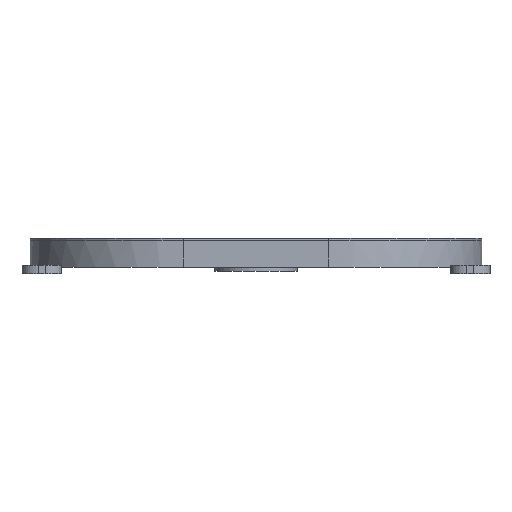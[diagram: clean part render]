
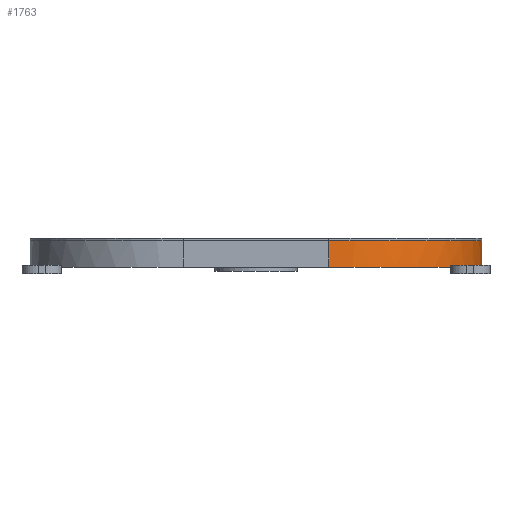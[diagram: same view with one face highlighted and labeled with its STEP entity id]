
A CAD part, left-side view. The second image highlights one B-rep face of the part: STEP entity #1763.
In plain terms, the highlighted cylindrical face has radius 9.3 mm (diameter 18.6 mm), a partial arc.
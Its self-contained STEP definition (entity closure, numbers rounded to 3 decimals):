
#205 = PLANE('',#206);
#206 = AXIS2_PLACEMENT_3D('',#207,#208,#209);
#207 = CARTESIAN_POINT('',(0.,-47.,-2.4));
#208 = DIRECTION('',(0.,0.,-1.));
#209 = DIRECTION('',(-1.,0.,0.));
#466 = TOROIDAL_SURFACE('',#467,7.95,1.35);
#467 = AXIS2_PLACEMENT_3D('',#468,#469,#470);
#468 = CARTESIAN_POINT('',(-4.4,-51.4,-0.8));
#469 = DIRECTION('',(0.,0.,-1.));
#470 = DIRECTION('',(-1.,0.,0.));
#572 = PLANE('',#573);
#573 = AXIS2_PLACEMENT_3D('',#574,#575,#576);
#574 = CARTESIAN_POINT('',(0.,-60.,-2.3));
#575 = DIRECTION('',(0.,0.,-1.));
#576 = DIRECTION('',(-1.,0.,0.));
#604 = PLANE('',#605);
#605 = AXIS2_PLACEMENT_3D('',#606,#607,#608);
#606 = CARTESIAN_POINT('',(-13.5,-58.8,-2.3));
#607 = DIRECTION('',(0.,1.,0.));
#608 = DIRECTION('',(1.,0.,0.));
#654 = PLANE('',#655);
#655 = AXIS2_PLACEMENT_3D('',#656,#657,#658);
#656 = CARTESIAN_POINT('',(4.4,-60.7,0.55));
#657 = DIRECTION('',(0.,-1.,0.));
#658 = DIRECTION('',(-1.,0.,0.));
#724 = VERTEX_POINT('',#725);
#725 = CARTESIAN_POINT('',(-10.033,-58.8,-2.4));
#746 = EDGE_CURVE('',#724,#747,#749,.T.);
#747 = VERTEX_POINT('',#748);
#748 = CARTESIAN_POINT('',(-13.7,-51.4,-2.4));
#749 = SURFACE_CURVE('',#750,(#755,#762),.PCURVE_S1.);
#750 = CIRCLE('',#751,9.3);
#751 = AXIS2_PLACEMENT_3D('',#752,#753,#754);
#752 = CARTESIAN_POINT('',(-4.4,-51.4,-2.4));
#753 = DIRECTION('',(-0.,-0.,-1.));
#754 = DIRECTION('',(0.,-1.,0.));
#755 = PCURVE('',#205,#756);
#756 = DEFINITIONAL_REPRESENTATION('',(#757),#761);
#757 = CIRCLE('',#758,9.3);
#758 = AXIS2_PLACEMENT_2D('',#759,#760);
#759 = CARTESIAN_POINT('',(4.4,-4.4));
#760 = DIRECTION('',(0.,-1.));
#761 = ( GEOMETRIC_REPRESENTATION_CONTEXT(2) 
PARAMETRIC_REPRESENTATION_CONTEXT() REPRESENTATION_CONTEXT('2D SPACE',''
  ) );
#762 = PCURVE('',#763,#768);
#763 = CYLINDRICAL_SURFACE('',#764,9.3);
#764 = AXIS2_PLACEMENT_3D('',#765,#766,#767);
#765 = CARTESIAN_POINT('',(-4.4,-51.4,0.55));
#766 = DIRECTION('',(0.,0.,-1.));
#767 = DIRECTION('',(0.,-1.,0.));
#768 = DEFINITIONAL_REPRESENTATION('',(#769),#773);
#769 = LINE('',#770,#771);
#770 = CARTESIAN_POINT('',(0.,2.95));
#771 = VECTOR('',#772,1.);
#772 = DIRECTION('',(1.,0.));
#773 = ( GEOMETRIC_REPRESENTATION_CONTEXT(2) 
PARAMETRIC_REPRESENTATION_CONTEXT() REPRESENTATION_CONTEXT('2D SPACE',''
  ) );
#791 = PLANE('',#792);
#792 = AXIS2_PLACEMENT_3D('',#793,#794,#795);
#793 = CARTESIAN_POINT('',(-13.7,-51.4,0.55));
#794 = DIRECTION('',(-1.,0.,0.));
#795 = DIRECTION('',(0.,1.,0.));
#958 = VERTEX_POINT('',#959);
#959 = CARTESIAN_POINT('',(-4.4,-60.7,-0.8));
#1008 = VERTEX_POINT('',#1009);
#1009 = CARTESIAN_POINT('',(-13.7,-51.4,-0.8));
#1031 = EDGE_CURVE('',#1008,#958,#1032,.T.);
#1032 = SURFACE_CURVE('',#1033,(#1038,#1045),.PCURVE_S1.);
#1033 = CIRCLE('',#1034,9.3);
#1034 = AXIS2_PLACEMENT_3D('',#1035,#1036,#1037);
#1035 = CARTESIAN_POINT('',(-4.4,-51.4,-0.8));
#1036 = DIRECTION('',(0.,0.,1.));
#1037 = DIRECTION('',(-0.707,-0.707,0.));
#1038 = PCURVE('',#466,#1039);
#1039 = DEFINITIONAL_REPRESENTATION('',(#1040),#1044);
#1040 = LINE('',#1041,#1042);
#1041 = CARTESIAN_POINT('',(11.781,6.283));
#1042 = VECTOR('',#1043,1.);
#1043 = DIRECTION('',(-1.,0.));
#1044 = ( GEOMETRIC_REPRESENTATION_CONTEXT(2) 
PARAMETRIC_REPRESENTATION_CONTEXT() REPRESENTATION_CONTEXT('2D SPACE',''
  ) );
#1045 = PCURVE('',#763,#1046);
#1046 = DEFINITIONAL_REPRESENTATION('',(#1047),#1051);
#1047 = LINE('',#1048,#1049);
#1048 = CARTESIAN_POINT('',(7.069,1.35));
#1049 = VECTOR('',#1050,1.);
#1050 = DIRECTION('',(-1.,0.));
#1051 = ( GEOMETRIC_REPRESENTATION_CONTEXT(2) 
PARAMETRIC_REPRESENTATION_CONTEXT() REPRESENTATION_CONTEXT('2D SPACE',''
  ) );
#1185 = EDGE_CURVE('',#1186,#1188,#1190,.T.);
#1186 = VERTEX_POINT('',#1187);
#1187 = CARTESIAN_POINT('',(-10.033,-58.8,-2.3));
#1188 = VERTEX_POINT('',#1189);
#1189 = CARTESIAN_POINT('',(-4.4,-60.7,-2.3));
#1190 = SURFACE_CURVE('',#1191,(#1196,#1207),.PCURVE_S1.);
#1191 = CIRCLE('',#1192,9.3);
#1192 = AXIS2_PLACEMENT_3D('',#1193,#1194,#1195);
#1193 = CARTESIAN_POINT('',(-4.4,-51.4,-2.3));
#1194 = DIRECTION('',(0.,0.,1.));
#1195 = DIRECTION('',(0.,-1.,0.));
#1196 = PCURVE('',#572,#1197);
#1197 = DEFINITIONAL_REPRESENTATION('',(#1198),#1206);
#1198 = ( BOUNDED_CURVE() B_SPLINE_CURVE(2,(#1199,#1200,#1201,#1202,
#1203,#1204,#1205),.UNSPECIFIED.,.T.,.F.) B_SPLINE_CURVE_WITH_KNOTS((1,2
    ,2,2,2,1),(-2.094,0.,2.094,4.189,
6.283,8.378),.UNSPECIFIED.) CURVE() 
GEOMETRIC_REPRESENTATION_ITEM() RATIONAL_B_SPLINE_CURVE((1.,0.5,1.,0.5,
1.,0.5,1.)) REPRESENTATION_ITEM('') );
#1199 = CARTESIAN_POINT('',(4.4,-0.7));
#1200 = CARTESIAN_POINT('',(-11.708,-0.7));
#1201 = CARTESIAN_POINT('',(-3.654,13.25));
#1202 = CARTESIAN_POINT('',(4.4,27.2));
#1203 = CARTESIAN_POINT('',(12.454,13.25));
#1204 = CARTESIAN_POINT('',(20.508,-0.7));
#1205 = CARTESIAN_POINT('',(4.4,-0.7));
#1206 = ( GEOMETRIC_REPRESENTATION_CONTEXT(2) 
PARAMETRIC_REPRESENTATION_CONTEXT() REPRESENTATION_CONTEXT('2D SPACE',''
  ) );
#1207 = PCURVE('',#763,#1208);
#1208 = DEFINITIONAL_REPRESENTATION('',(#1209),#1213);
#1209 = LINE('',#1210,#1211);
#1210 = CARTESIAN_POINT('',(6.283,2.85));
#1211 = VECTOR('',#1212,1.);
#1212 = DIRECTION('',(-1.,0.));
#1213 = ( GEOMETRIC_REPRESENTATION_CONTEXT(2) 
PARAMETRIC_REPRESENTATION_CONTEXT() REPRESENTATION_CONTEXT('2D SPACE',''
  ) );
#1484 = EDGE_CURVE('',#724,#1186,#1485,.T.);
#1485 = SURFACE_CURVE('',#1486,(#1490,#1497),.PCURVE_S1.);
#1486 = LINE('',#1487,#1488);
#1487 = CARTESIAN_POINT('',(-10.033,-58.8,0.55));
#1488 = VECTOR('',#1489,1.);
#1489 = DIRECTION('',(0.,0.,1.));
#1490 = PCURVE('',#604,#1491);
#1491 = DEFINITIONAL_REPRESENTATION('',(#1492),#1496);
#1492 = LINE('',#1493,#1494);
#1493 = CARTESIAN_POINT('',(3.467,-2.85));
#1494 = VECTOR('',#1495,1.);
#1495 = DIRECTION('',(0.,-1.));
#1496 = ( GEOMETRIC_REPRESENTATION_CONTEXT(2) 
PARAMETRIC_REPRESENTATION_CONTEXT() REPRESENTATION_CONTEXT('2D SPACE',''
  ) );
#1497 = PCURVE('',#763,#1498);
#1498 = DEFINITIONAL_REPRESENTATION('',(#1499),#1503);
#1499 = LINE('',#1500,#1501);
#1500 = CARTESIAN_POINT('',(0.651,0.));
#1501 = VECTOR('',#1502,1.);
#1502 = DIRECTION('',(0.,-1.));
#1503 = ( GEOMETRIC_REPRESENTATION_CONTEXT(2) 
PARAMETRIC_REPRESENTATION_CONTEXT() REPRESENTATION_CONTEXT('2D SPACE',''
  ) );
#1587 = EDGE_CURVE('',#958,#1188,#1588,.T.);
#1588 = SURFACE_CURVE('',#1589,(#1593,#1600),.PCURVE_S1.);
#1589 = LINE('',#1590,#1591);
#1590 = CARTESIAN_POINT('',(-4.4,-60.7,0.55));
#1591 = VECTOR('',#1592,1.);
#1592 = DIRECTION('',(0.,0.,-1.));
#1593 = PCURVE('',#654,#1594);
#1594 = DEFINITIONAL_REPRESENTATION('',(#1595),#1599);
#1595 = LINE('',#1596,#1597);
#1596 = CARTESIAN_POINT('',(8.8,0.));
#1597 = VECTOR('',#1598,1.);
#1598 = DIRECTION('',(0.,1.));
#1599 = ( GEOMETRIC_REPRESENTATION_CONTEXT(2) 
PARAMETRIC_REPRESENTATION_CONTEXT() REPRESENTATION_CONTEXT('2D SPACE',''
  ) );
#1600 = PCURVE('',#763,#1601);
#1601 = DEFINITIONAL_REPRESENTATION('',(#1602),#1606);
#1602 = LINE('',#1603,#1604);
#1603 = CARTESIAN_POINT('',(0.,0.));
#1604 = VECTOR('',#1605,1.);
#1605 = DIRECTION('',(0.,1.));
#1606 = ( GEOMETRIC_REPRESENTATION_CONTEXT(2) 
PARAMETRIC_REPRESENTATION_CONTEXT() REPRESENTATION_CONTEXT('2D SPACE',''
  ) );
#1763 = ADVANCED_FACE('',(#1764),#763,.T.);
#1764 = FACE_BOUND('',#1765,.T.);
#1765 = EDGE_LOOP('',(#1766,#1767,#1768,#1769,#1790,#1791));
#1766 = ORIENTED_EDGE('',*,*,#1185,.T.);
#1767 = ORIENTED_EDGE('',*,*,#1587,.F.);
#1768 = ORIENTED_EDGE('',*,*,#1031,.F.);
#1769 = ORIENTED_EDGE('',*,*,#1770,.T.);
#1770 = EDGE_CURVE('',#1008,#747,#1771,.T.);
#1771 = SURFACE_CURVE('',#1772,(#1776,#1783),.PCURVE_S1.);
#1772 = LINE('',#1773,#1774);
#1773 = CARTESIAN_POINT('',(-13.7,-51.4,0.55));
#1774 = VECTOR('',#1775,1.);
#1775 = DIRECTION('',(0.,0.,-1.));
#1776 = PCURVE('',#763,#1777);
#1777 = DEFINITIONAL_REPRESENTATION('',(#1778),#1782);
#1778 = LINE('',#1779,#1780);
#1779 = CARTESIAN_POINT('',(1.571,0.));
#1780 = VECTOR('',#1781,1.);
#1781 = DIRECTION('',(0.,1.));
#1782 = ( GEOMETRIC_REPRESENTATION_CONTEXT(2) 
PARAMETRIC_REPRESENTATION_CONTEXT() REPRESENTATION_CONTEXT('2D SPACE',''
  ) );
#1783 = PCURVE('',#791,#1784);
#1784 = DEFINITIONAL_REPRESENTATION('',(#1785),#1789);
#1785 = LINE('',#1786,#1787);
#1786 = CARTESIAN_POINT('',(0.,0.));
#1787 = VECTOR('',#1788,1.);
#1788 = DIRECTION('',(0.,1.));
#1789 = ( GEOMETRIC_REPRESENTATION_CONTEXT(2) 
PARAMETRIC_REPRESENTATION_CONTEXT() REPRESENTATION_CONTEXT('2D SPACE',''
  ) );
#1790 = ORIENTED_EDGE('',*,*,#746,.F.);
#1791 = ORIENTED_EDGE('',*,*,#1484,.T.);
